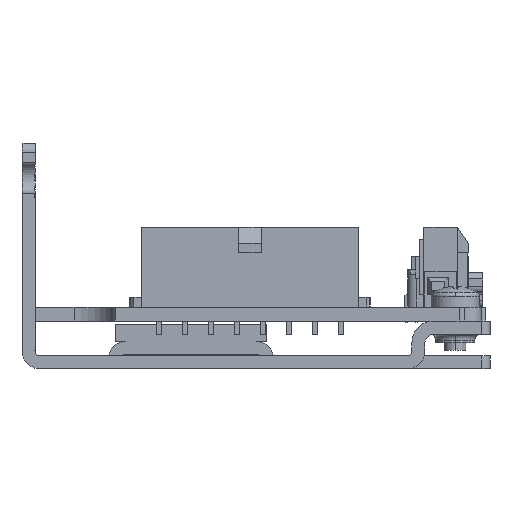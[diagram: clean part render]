
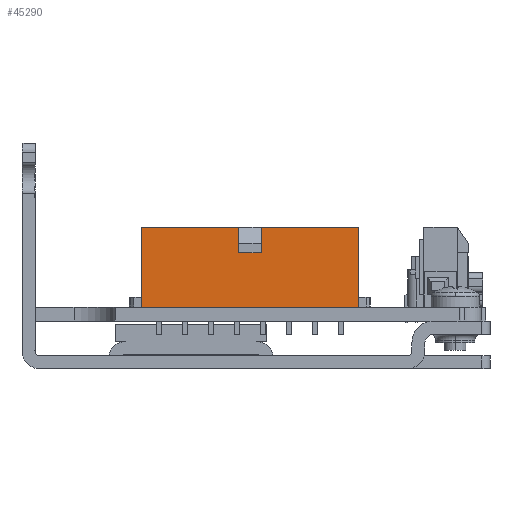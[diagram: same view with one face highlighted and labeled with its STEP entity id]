
A CAD part, left-side view. The second image highlights one B-rep face of the part: STEP entity #45290.
In plain terms, the highlighted planar face has unit normal (-1, 0, 0).
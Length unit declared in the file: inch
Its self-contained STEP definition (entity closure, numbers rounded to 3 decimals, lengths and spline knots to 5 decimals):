
#412 = CARTESIAN_POINT ( 'NONE',  ( 0.16417, 1.03937, 0.64331 ) ) ;
#451 = CARTESIAN_POINT ( 'NONE',  ( 0.16417, 1.58268, 0.64331 ) ) ;
#737 = LINE ( 'NONE', #8517, #18347 ) ;
#1646 = ORIENTED_EDGE ( 'NONE', *, *, #38644, .T. ) ;
#1683 = ORIENTED_EDGE ( 'NONE', *, *, #37852, .F. ) ;
#1960 = DIRECTION ( 'NONE',  ( 0., 1., 0. ) ) ;
#5845 = CARTESIAN_POINT ( 'NONE',  ( 0.16417, 1.14173, 0.64331 ) ) ;
#6257 = ORIENTED_EDGE ( 'NONE', *, *, #30544, .T. ) ;
#6368 = EDGE_CURVE ( 'NONE', #39104, #30009, #22831, .T. ) ;
#6944 = LINE ( 'NONE', #21808, #15194 ) ;
#7090 = EDGE_CURVE ( 'NONE', #29883, #17526, #13963, .T. ) ;
#7666 = PLANE ( 'NONE',  #39747 ) ;
#7669 = CARTESIAN_POINT ( 'NONE',  ( 0.16417, 1.58268, 0.27953 ) ) ;
#8517 = CARTESIAN_POINT ( 'NONE',  ( 0.16417, 0.59843, 0.64331 ) ) ;
#9050 = CARTESIAN_POINT ( 'NONE',  ( 0.16417, 1.58268, 0.64331 ) ) ;
#9580 = DIRECTION ( 'NONE',  ( 0., 1., 0. ) ) ;
#9648 = DIRECTION ( 'NONE',  ( 0., 0., 1. ) ) ;
#11107 = ORIENTED_EDGE ( 'NONE', *, *, #28632, .T. ) ;
#11411 = CARTESIAN_POINT ( 'NONE',  ( 0.16417, 1.14173, 0.52717 ) ) ;
#13963 = LINE ( 'NONE', #30575, #22222 ) ;
#14744 = DIRECTION ( 'NONE',  ( -1., 0., 0. ) ) ;
#15194 = VECTOR ( 'NONE', #25319, 39.37008 ) ;
#16536 = EDGE_CURVE ( 'NONE', #29883, #38922, #737, .T. ) ;
#17526 = VERTEX_POINT ( 'NONE', #7669 ) ;
#17719 = ORIENTED_EDGE ( 'NONE', *, *, #18811, .T. ) ;
#18108 = DIRECTION ( 'NONE',  ( 0., 0., -1. ) ) ;
#18347 = VECTOR ( 'NONE', #26040, 39.37008 ) ;
#18811 = EDGE_CURVE ( 'NONE', #30009, #31911, #19221, .T. ) ;
#19221 = LINE ( 'NONE', #27304, #28526 ) ;
#21808 = CARTESIAN_POINT ( 'NONE',  ( 0.16417, 1.58268, 0.64331 ) ) ;
#22222 = VECTOR ( 'NONE', #9580, 39.37008 ) ;
#22831 = LINE ( 'NONE', #34581, #33229 ) ;
#24449 = VECTOR ( 'NONE', #18108, 39.37008 ) ;
#24882 = EDGE_LOOP ( 'NONE', ( #44734, #1646, #6257, #43010, #17719, #11107, #1683, #30699 ) ) ;
#25319 = DIRECTION ( 'NONE',  ( 0., 1., 0. ) ) ;
#25454 = LINE ( 'NONE', #9050, #34742 ) ;
#26040 = DIRECTION ( 'NONE',  ( 0., 0., 1. ) ) ;
#27304 = CARTESIAN_POINT ( 'NONE',  ( 0.16417, 1.14173, 0.64331 ) ) ;
#28526 = VECTOR ( 'NONE', #9648, 39.37008 ) ;
#28632 = EDGE_CURVE ( 'NONE', #31911, #41698, #25454, .T. ) ;
#28749 = FACE_OUTER_BOUND ( 'NONE', #24882, .T. ) ;
#29883 = VERTEX_POINT ( 'NONE', #38060 ) ;
#30009 = VERTEX_POINT ( 'NONE', #11411 ) ;
#30544 = EDGE_CURVE ( 'NONE', #32769, #39104, #33750, .T. ) ;
#30575 = CARTESIAN_POINT ( 'NONE',  ( 0.16417, 2.09055, 0.27953 ) ) ;
#30616 = LINE ( 'NONE', #37927, #38807 ) ;
#30699 = ORIENTED_EDGE ( 'NONE', *, *, #7090, .F. ) ;
#31911 = VERTEX_POINT ( 'NONE', #5845 ) ;
#32769 = VERTEX_POINT ( 'NONE', #33347 ) ;
#33229 = VECTOR ( 'NONE', #38081, 39.37008 ) ;
#33347 = CARTESIAN_POINT ( 'NONE',  ( 0.16417, 1.03937, 0.64331 ) ) ;
#33750 = LINE ( 'NONE', #412, #24449 ) ;
#34581 = CARTESIAN_POINT ( 'NONE',  ( 0.16417, 1.58268, 0.52717 ) ) ;
#34742 = VECTOR ( 'NONE', #1960, 39.37008 ) ;
#37852 = EDGE_CURVE ( 'NONE', #17526, #41698, #30616, .T. ) ;
#37927 = CARTESIAN_POINT ( 'NONE',  ( 0.16417, 1.58268, 0.64331 ) ) ;
#38060 = CARTESIAN_POINT ( 'NONE',  ( 0.16417, 0.59843, 0.27953 ) ) ;
#38081 = DIRECTION ( 'NONE',  ( 0., 1., 0. ) ) ;
#38644 = EDGE_CURVE ( 'NONE', #38922, #32769, #6944, .T. ) ;
#38807 = VECTOR ( 'NONE', #41330, 39.37008 ) ;
#38922 = VERTEX_POINT ( 'NONE', #44429 ) ;
#39043 = CARTESIAN_POINT ( 'NONE',  ( 0.16417, 1.03937, 0.52717 ) ) ;
#39104 = VERTEX_POINT ( 'NONE', #39043 ) ;
#39238 = DIRECTION ( 'NONE',  ( 0., -1., 0. ) ) ;
#39747 = AXIS2_PLACEMENT_3D ( 'NONE', #42610, #14744, #39238 ) ;
#41330 = DIRECTION ( 'NONE',  ( 0., 0., 1. ) ) ;
#41698 = VERTEX_POINT ( 'NONE', #451 ) ;
#42610 = CARTESIAN_POINT ( 'NONE',  ( 0.16417, 1.58268, 0.64331 ) ) ;
#43010 = ORIENTED_EDGE ( 'NONE', *, *, #6368, .T. ) ;
#44429 = CARTESIAN_POINT ( 'NONE',  ( 0.16417, 0.59843, 0.64331 ) ) ;
#44734 = ORIENTED_EDGE ( 'NONE', *, *, #16536, .T. ) ;
#45290 = ADVANCED_FACE ( 'NONE', ( #28749 ), #7666, .T. ) ;
